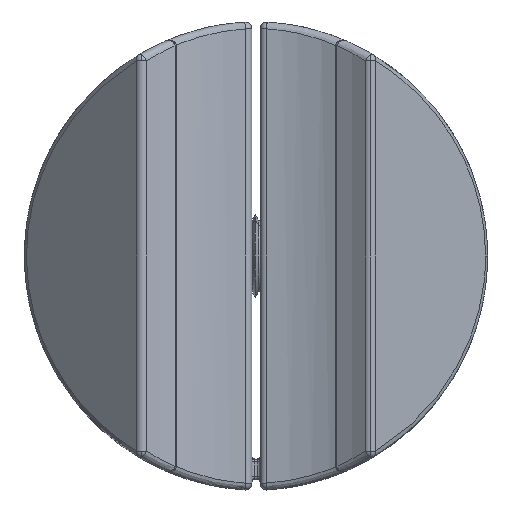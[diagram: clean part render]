
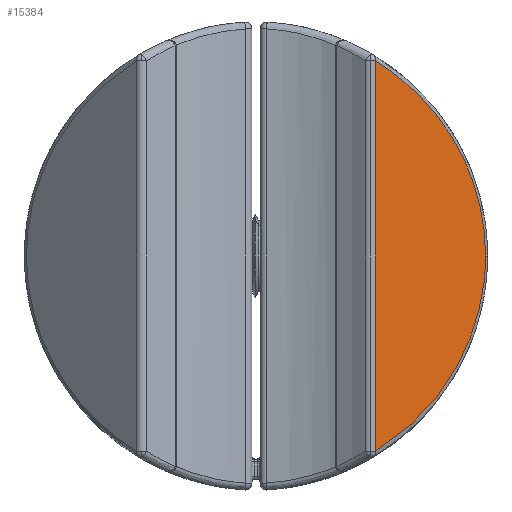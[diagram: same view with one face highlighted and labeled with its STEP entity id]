
A CAD part, front view. The second image highlights one B-rep face of the part: STEP entity #15384.
In plain terms, the highlighted planar face has unit normal (0.707, -0.707, 0) as drawn and (0.707, 0.707, 0) by its records, which use the part's own axes.
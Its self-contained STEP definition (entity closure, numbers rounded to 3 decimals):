
#431 = CARTESIAN_POINT ( 'NONE',  ( 19.16, 8.34, -14.15 ) ) ;
#2967 = CARTESIAN_POINT ( 'NONE',  ( 19.16, 8.34, 14.15 ) ) ;
#2968 = CARTESIAN_POINT ( 'NONE',  ( 14.071, 13.429, 11.098 ) ) ;
#2970 = CARTESIAN_POINT ( 'NONE',  ( 11.146, 16.354, 0. ) ) ;
#2975 = CARTESIAN_POINT ( 'NONE',  ( 11.146, 16.354, 5.934 ) ) ;
#3814 = VERTEX_POINT ( 'NONE', #14989 ) ;
#3879 = EDGE_CURVE ( 'NONE', #8390, #3814, #11795, .T. ) ;
#3881 = EDGE_CURVE ( 'NONE', #4362, #8390, #7077, .T. ) ;
#4362 = VERTEX_POINT ( 'NONE', #11558 ) ;
#5628 = EDGE_LOOP ( 'NONE', ( #13609, #13608, #13607 ) ) ;
#5777 = AXIS2_PLACEMENT_3D ( 'NONE', #10617, #10622, #10623 ) ;
#7077 = LINE ( 'NONE', #12094, #7079 ) ;
#7079 = VECTOR ( 'NONE', #12095, 1000. ) ;
#7685 = FACE_OUTER_BOUND ( 'NONE', #5628, .T. ) ;
#8390 = VERTEX_POINT ( 'NONE', #431 ) ;
#8589 = EDGE_CURVE ( 'NONE', #3814, #4362, #11577, .T. ) ;
#10611 = PLANE ( 'NONE',  #5777 ) ;
#10617 = CARTESIAN_POINT ( 'NONE',  ( 19.5, 8., -18.5 ) ) ;
#10622 = DIRECTION ( 'NONE',  ( -0.707, -0.707, 0. ) ) ;
#10623 = DIRECTION ( 'NONE',  ( 0.707, -0.707, 0. ) ) ;
#11558 = CARTESIAN_POINT ( 'NONE',  ( 19.16, 8.34, 14.15 ) ) ;
#11577 =( BOUNDED_CURVE ( )  B_SPLINE_CURVE ( 3, ( #2970, #2975, #2968, #2967 ),
 .UNSPECIFIED., .F., .T. ) 
 B_SPLINE_CURVE_WITH_KNOTS ( ( 4, 4 ),
 ( 0., 1.031 ),
 .UNSPECIFIED. ) 
 CURVE ( )  GEOMETRIC_REPRESENTATION_ITEM ( )  RATIONAL_B_SPLINE_CURVE ( ( 1., 0.913, 0.913, 1. ) ) 
 REPRESENTATION_ITEM ( '' )  );
#11795 =( BOUNDED_CURVE ( )  B_SPLINE_CURVE ( 3, ( #12106, #12099, #12093, #12092 ),
 .UNSPECIFIED., .F., .F. ) 
 B_SPLINE_CURVE_WITH_KNOTS ( ( 4, 4 ),
 ( 5.253, 6.283 ),
 .UNSPECIFIED. ) 
 CURVE ( )  GEOMETRIC_REPRESENTATION_ITEM ( )  RATIONAL_B_SPLINE_CURVE ( ( 1., 0.913, 0.913, 1. ) ) 
 REPRESENTATION_ITEM ( '' )  );
#12092 = CARTESIAN_POINT ( 'NONE',  ( 11.146, 16.354, 0. ) ) ;
#12093 = CARTESIAN_POINT ( 'NONE',  ( 11.146, 16.354, -5.934 ) ) ;
#12094 = CARTESIAN_POINT ( 'NONE',  ( 19.16, 8.34, -18.5 ) ) ;
#12095 = DIRECTION ( 'NONE',  ( 0., 0., -1. ) ) ;
#12099 = CARTESIAN_POINT ( 'NONE',  ( 14.071, 13.429, -11.098 ) ) ;
#12106 = CARTESIAN_POINT ( 'NONE',  ( 19.16, 8.34, -14.15 ) ) ;
#13607 = ORIENTED_EDGE ( 'NONE', *, *, #3881, .T. ) ;
#13608 = ORIENTED_EDGE ( 'NONE', *, *, #8589, .T. ) ;
#13609 = ORIENTED_EDGE ( 'NONE', *, *, #3879, .T. ) ;
#14989 = CARTESIAN_POINT ( 'NONE',  ( 11.146, 16.354, 0. ) ) ;
#15384 = ADVANCED_FACE ( 'NONE', ( #7685 ), #10611, .F. ) ;
